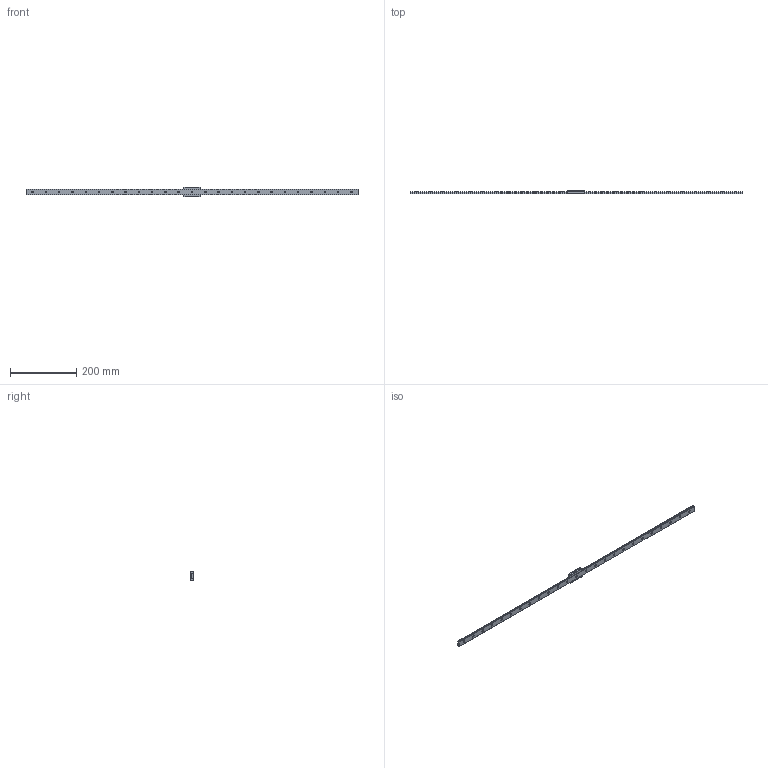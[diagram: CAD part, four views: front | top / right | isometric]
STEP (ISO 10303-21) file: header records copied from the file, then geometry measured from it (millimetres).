
FILE_DESCRIPTION( ( '' ), '1' );
FILE_NAME( 'C:/Users/v3-771-32344/Documents/Website 2016/STEP/SHW12HRM1UU1000200474.8000.stp', '2016-11-10T12:45:09', ( '' ), ( '' ), ' ', ' ', ' ' );
FILE_SCHEMA( ( 'CONFIG_CONTROL_DESIGN' ) );
Length unit declared in the file: millimetre
Products named in the file (2): 1; 2
Bounding box: 1000 x 12 x 30 mm (x, y, z)
Volume: 113685.3 mm3; surface area: 57490.6 mm2
Topology: 2 solids, 2 shells, 273 faces, 702 edges, 456 vertices
Faces by surface type: cylinder 146, plane 111, cone 16
Entity records: 8524 total; most frequent: DIRECTION 1552, CARTESIAN_POINT 1425, ORIENTED_EDGE 1388, EDGE_CURVE 694, AXIS2_PLACEMENT_3D 583, VERTEX_POINT 456, LINE 386, VECTOR 386
